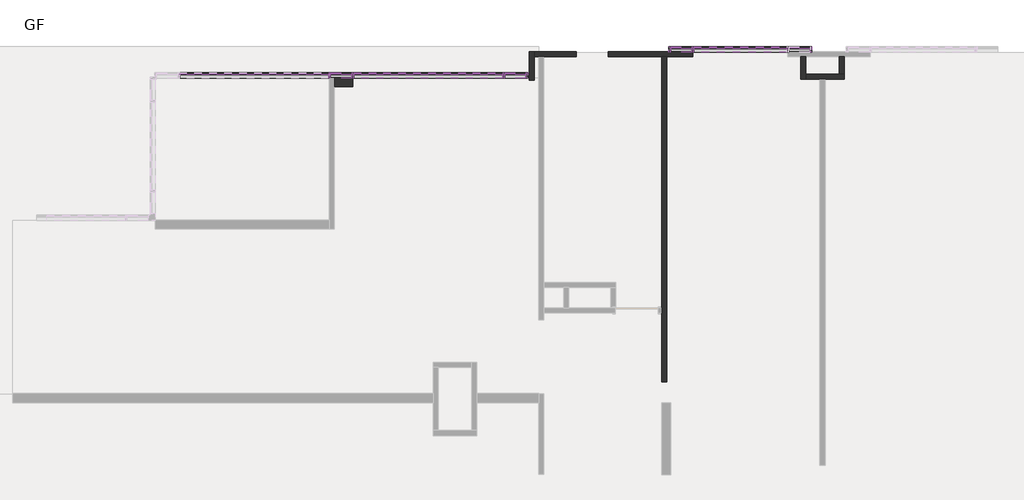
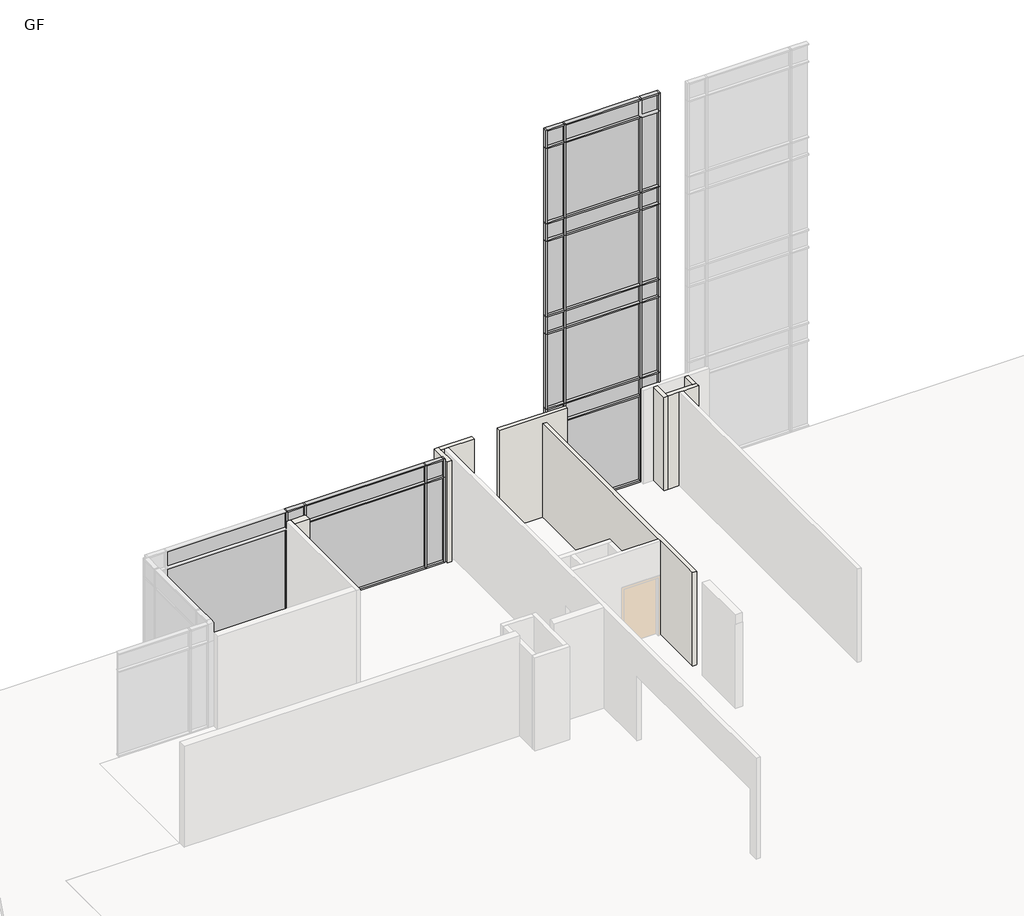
# One storey, part 16 of 23: 75 members, 32 plates, 8 walls.
"""IFC4 building model written with IfcOpenShell, lengths in millimetres."""

from ifc_helpers import new_model, si_unit, frame, origin, place, context, project, spatial, polyline, outline, extrude, faceted_brep, transform, mapped, element, save
from components import rectangular_mullion_50_x_150mm_64d38db8, rectangular_mullion_50_x_150mm_68b3818a, rectangular_mullion_50_x_150mm_dbb82e9e, rectangular_mullion_50_x_150mm_350c86c2, rectangular_mullion_50_x_150mm_f245f1eb, rectangular_mullion_50_x_150mm_5fdcfccd, rectangular_mullion_50_x_150mm_d11e3bb4, rectangular_mullion_50_x_150mm_7d543e93, rectangular_mullion_50_x_150mm_9e0f1e24, rectangular_mullion_50_x_150mm_a95743fc, rectangular_mullion_50_x_150mm_32aaa733, rectangular_mullion_50_x_150mm_9b8962c0, rectangular_mullion_50_x_150mm_b34d1ea9, rectangular_mullion_50_x_150mm_eae7d4bc, rectangular_mullion_50_x_150mm_8786dd09, rectangular_mullion_50_x_150mm_eaf4cf72, system_panel_glazed_24812111, system_panel_glazed_4cc813f7, system_panel_glazed_e5239730, system_panel_glazed_78397629, system_panel_glazed_46705a58, system_panel_glazed_6a293f1c, system_panel_glazed_93ed122c, system_panel_glazed_2ee935f9, system_panel_glazed_519bd7f2, system_panel_glazed_ec0e8b53

model = new_model("IFC4")

# Units and contexts
model_context = context("Model", 3, world=origin())
ifc_project = project(units=[si_unit("LENGTHUNIT", "METRE", prefix="MILLI")], contexts=[model_context])

# Site, building, storey
site = spatial("IfcSite", under=ifc_project)
building = spatial("IfcBuilding", under=site)
storey = spatial("IfcBuildingStorey", under=building, Name="GF", Elevation=900.0)

# Members
placement = place(None, origin())
rectangular_mullion_50_x_150mm_shape = rectangular_mullion_50_x_150mm_64d38db8(model_context)
element("IfcMember", 1, ObjectType="Rectangular Mullion : 50 x 150mm", at=placement, inside=storey, context=model_context, shape_type="MappedRepresentation", body=[
    mapped(rectangular_mullion_50_x_150mm_shape, transform((-26627.5865899, 20597.3851347, 4750.0), x_axis=(0.0, 0.0, 1.0), y_axis=(0.0, 1.0, 0.0), z_axis=(-1.0, 0.0, 0.0))),
])
element("IfcMember", 2, ObjectType="Rectangular Mullion : 50 x 150mm", at=placement, inside=storey, context=model_context, shape_type="MappedRepresentation", body=[
    mapped(rectangular_mullion_50_x_150mm_shape, transform((-21742.5865899, 20597.3851347, 4750.0), x_axis=(0.0, 0.0, 1.0), y_axis=(0.0, 1.0, 0.0), z_axis=(-1.0, 0.0, 0.0))),
])
element("IfcMember", 3, ObjectType="Rectangular Mullion : 50 x 150mm", at=placement, inside=storey, context=model_context, shape_type="MappedRepresentation", body=[
    mapped(rectangular_mullion_50_x_150mm_shape, transform((-21142.5865899, 20597.3851347, 900.0), x_axis=(0.0, 0.0, -1.0), y_axis=(0.0, 1.0, 0.0), z_axis=(1.0, 0.0, 0.0))),
])
element("IfcMember", 4, ObjectType="Rectangular Mullion : 50 x 150mm", at=placement, inside=storey, context=model_context, shape_type="MappedRepresentation", body=[
    mapped(rectangular_mullion_50_x_150mm_shape, transform((-26027.5865899, 20597.3851347, 900.0), x_axis=(0.0, 0.0, -1.0), y_axis=(0.0, 1.0, 0.0), z_axis=(1.0, 0.0, 0.0))),
])
element("IfcMember", 5, ObjectType="Rectangular Mullion : 50 x 150mm", at=placement, inside=storey, context=model_context, shape_type="MappedRepresentation", body=[
    mapped(rectangular_mullion_50_x_150mm_shape, transform((-13172.5865899, 21322.3851347, 15125.0), x_axis=(0.0, 0.0, 1.0), y_axis=(0.0, -1.0, 0.0), z_axis=(1.0, 0.0, 0.0))),
])
element("IfcMember", 6, ObjectType="Rectangular Mullion : 50 x 150mm", at=placement, inside=storey, context=model_context, shape_type="MappedRepresentation", body=[
    mapped(rectangular_mullion_50_x_150mm_shape, transform((-16487.5865899, 21322.3851347, 15125.0), x_axis=(0.0, 0.0, 1.0), y_axis=(0.0, -1.0, 0.0), z_axis=(1.0, 0.0, 0.0))),
])
element("IfcMember", 7, ObjectType="Rectangular Mullion : 50 x 150mm", at=placement, inside=storey, context=model_context, shape_type="MappedRepresentation", body=[
    mapped(rectangular_mullion_50_x_150mm_shape, transform((-17087.5865899, 21322.3851347, 900.0), x_axis=(0.0, 0.0, -1.0), y_axis=(0.0, -1.0, 0.0), z_axis=(-1.0, 0.0, 0.0))),
])
element("IfcMember", 8, ObjectType="Rectangular Mullion : 50 x 150mm", at=placement, inside=storey, context=model_context, shape_type="MappedRepresentation", body=[
    mapped(rectangular_mullion_50_x_150mm_shape, transform((-13772.5865899, 21322.3851347, 900.0), x_axis=(0.0, 0.0, -1.0), y_axis=(0.0, -1.0, 0.0), z_axis=(-1.0, 0.0, 0.0))),
])
rectangular_mullion_50_x_150mm_2_shape = rectangular_mullion_50_x_150mm_68b3818a(model_context)
element("IfcMember", 9, ObjectType="Rectangular Mullion : 50 x 150mm", at=placement, inside=storey, context=model_context, shape_type="MappedRepresentation", body=[
    mapped(rectangular_mullion_50_x_150mm_2_shape, transform((-16487.5865899, 21322.3851347, 4750.0), x_axis=(0.0, 0.0, 1.0), y_axis=(0.0, -1.0, 0.0), z_axis=(1.0, 0.0, 0.0))),
])
element("IfcMember", 10, ObjectType="Rectangular Mullion : 50 x 150mm", at=placement, inside=storey, context=model_context, shape_type="MappedRepresentation", body=[
    mapped(rectangular_mullion_50_x_150mm_2_shape, transform((-13172.5865899, 21322.3851347, 4750.0), x_axis=(0.0, 0.0, 1.0), y_axis=(0.0, -1.0, 0.0), z_axis=(1.0, 0.0, 0.0))),
])
element("IfcMember", 11, ObjectType="Rectangular Mullion : 50 x 150mm", at=placement, inside=storey, context=model_context, shape_type="MappedRepresentation", body=[
    mapped(rectangular_mullion_50_x_150mm_2_shape, transform((-16487.5865899, 21322.3851347, 4100.0), x_axis=(0.0, 0.0, 1.0), y_axis=(0.0, -1.0, 0.0), z_axis=(1.0, 0.0, 0.0))),
])
element("IfcMember", 12, ObjectType="Rectangular Mullion : 50 x 150mm", at=placement, inside=storey, context=model_context, shape_type="MappedRepresentation", body=[
    mapped(rectangular_mullion_50_x_150mm_2_shape, transform((-13172.5865899, 21322.3851347, 4100.0), x_axis=(0.0, 0.0, 1.0), y_axis=(0.0, -1.0, 0.0), z_axis=(1.0, 0.0, 0.0))),
])
element("IfcMember", 13, ObjectType="Rectangular Mullion : 50 x 150mm", at=placement, inside=storey, context=model_context, shape_type="MappedRepresentation", body=[
    mapped(rectangular_mullion_50_x_150mm_2_shape, transform((-16487.5865899, 21322.3851347, 8200.0), x_axis=(0.0, 0.0, 1.0), y_axis=(0.0, -1.0, 0.0), z_axis=(1.0, 0.0, 0.0))),
])
element("IfcMember", 14, ObjectType="Rectangular Mullion : 50 x 150mm", at=placement, inside=storey, context=model_context, shape_type="MappedRepresentation", body=[
    mapped(rectangular_mullion_50_x_150mm_2_shape, transform((-13172.5865899, 21322.3851347, 8200.0), x_axis=(0.0, 0.0, 1.0), y_axis=(0.0, -1.0, 0.0), z_axis=(1.0, 0.0, 0.0))),
])
element("IfcMember", 15, ObjectType="Rectangular Mullion : 50 x 150mm", at=placement, inside=storey, context=model_context, shape_type="MappedRepresentation", body=[
    mapped(rectangular_mullion_50_x_150mm_2_shape, transform((-16487.5865899, 21322.3851347, 11650.0), x_axis=(0.0, 0.0, 1.0), y_axis=(0.0, -1.0, 0.0), z_axis=(1.0, 0.0, 0.0))),
])
element("IfcMember", 16, ObjectType="Rectangular Mullion : 50 x 150mm", at=placement, inside=storey, context=model_context, shape_type="MappedRepresentation", body=[
    mapped(rectangular_mullion_50_x_150mm_2_shape, transform((-13172.5865899, 21322.3851347, 11650.0), x_axis=(0.0, 0.0, 1.0), y_axis=(0.0, -1.0, 0.0), z_axis=(1.0, 0.0, 0.0))),
])
element("IfcMember", 17, ObjectType="Rectangular Mullion : 50 x 150mm", at=placement, inside=storey, context=model_context, shape_type="MappedRepresentation", body=[
    mapped(rectangular_mullion_50_x_150mm_2_shape, transform((-16487.5865899, 21322.3851347, 7550.0), x_axis=(0.0, 0.0, 1.0), y_axis=(0.0, -1.0, 0.0), z_axis=(1.0, 0.0, 0.0))),
])
element("IfcMember", 18, ObjectType="Rectangular Mullion : 50 x 150mm", at=placement, inside=storey, context=model_context, shape_type="MappedRepresentation", body=[
    mapped(rectangular_mullion_50_x_150mm_2_shape, transform((-13172.5865899, 21322.3851347, 7550.0), x_axis=(0.0, 0.0, 1.0), y_axis=(0.0, -1.0, 0.0), z_axis=(1.0, 0.0, 0.0))),
])
element("IfcMember", 19, ObjectType="Rectangular Mullion : 50 x 150mm", at=placement, inside=storey, context=model_context, shape_type="MappedRepresentation", body=[
    mapped(rectangular_mullion_50_x_150mm_2_shape, transform((-16487.5865899, 21322.3851347, 11000.0), x_axis=(0.0, 0.0, 1.0), y_axis=(0.0, -1.0, 0.0), z_axis=(1.0, 0.0, 0.0))),
])
element("IfcMember", 20, ObjectType="Rectangular Mullion : 50 x 150mm", at=placement, inside=storey, context=model_context, shape_type="MappedRepresentation", body=[
    mapped(rectangular_mullion_50_x_150mm_2_shape, transform((-13172.5865899, 21322.3851347, 11000.0), x_axis=(0.0, 0.0, 1.0), y_axis=(0.0, -1.0, 0.0), z_axis=(1.0, 0.0, 0.0))),
])
element("IfcMember", 21, ObjectType="Rectangular Mullion : 50 x 150mm", at=placement, inside=storey, context=model_context, shape_type="MappedRepresentation", body=[
    mapped(rectangular_mullion_50_x_150mm_2_shape, transform((-16487.5865899, 21322.3851347, 14450.0), x_axis=(0.0, 0.0, 1.0), y_axis=(0.0, -1.0, 0.0), z_axis=(1.0, 0.0, 0.0))),
])
element("IfcMember", 22, ObjectType="Rectangular Mullion : 50 x 150mm", at=placement, inside=storey, context=model_context, shape_type="MappedRepresentation", body=[
    mapped(rectangular_mullion_50_x_150mm_2_shape, transform((-21742.5865899, 20597.3851347, 4075.0), x_axis=(0.0, 0.0, 1.0), y_axis=(0.0, 1.0, 0.0), z_axis=(-1.0, 0.0, 0.0))),
])
element("IfcMember", 23, ObjectType="Rectangular Mullion : 50 x 150mm", at=placement, inside=storey, context=model_context, shape_type="MappedRepresentation", body=[
    mapped(rectangular_mullion_50_x_150mm_2_shape, transform((-26627.5865899, 20597.3851347, 4075.0), x_axis=(0.0, 0.0, 1.0), y_axis=(0.0, 1.0, 0.0), z_axis=(-1.0, 0.0, 0.0))),
])
rectangular_mullion_50_x_150mm_3_shape = rectangular_mullion_50_x_150mm_dbb82e9e(model_context)
element("IfcMember", 24, ObjectType="Rectangular Mullion : 50 x 150mm", at=placement, inside=storey, context=model_context, shape_type="MappedRepresentation", body=[
    mapped(rectangular_mullion_50_x_150mm_3_shape, transform((-21092.5865899, 20597.3851347, 4750.0), x_axis=(1.0, 0.0, 0.0), y_axis=(0.0, 1.0, 0.0), z_axis=(0.0, 0.0, 1.0))),
])
rectangular_mullion_50_x_150mm_4_shape = rectangular_mullion_50_x_150mm_350c86c2(model_context)
element("IfcMember", 25, ObjectType="Rectangular Mullion : 50 x 150mm", at=placement, inside=storey, context=model_context, shape_type="MappedRepresentation", body=[
    mapped(rectangular_mullion_50_x_150mm_4_shape, transform((-16437.5865899, 21322.3851347, 900.0), x_axis=(0.0, 0.0, -1.0), y_axis=(0.0, -1.0, 0.0), z_axis=(-1.0, 0.0, 0.0))),
])
rectangular_mullion_50_x_150mm_5_shape = rectangular_mullion_50_x_150mm_f245f1eb(model_context)
element("IfcMember", 26, ObjectType="Rectangular Mullion : 50 x 150mm", at=placement, inside=storey, context=model_context, shape_type="MappedRepresentation", body=[
    mapped(rectangular_mullion_50_x_150mm_5_shape, transform((-16462.5865899, 21322.3851347, 900.0), x_axis=(1.0, 0.0, 0.0), y_axis=(0.0, -1.0, 0.0), z_axis=(0.0, 0.0, -1.0))),
])
element("IfcMember", 27, ObjectType="Rectangular Mullion : 50 x 150mm", at=placement, inside=storey, context=model_context, shape_type="MappedRepresentation", body=[
    mapped(rectangular_mullion_50_x_150mm_5_shape, transform((-13797.5865899, 21322.3851347, 900.0), x_axis=(1.0, 0.0, 0.0), y_axis=(0.0, -1.0, 0.0), z_axis=(0.0, 0.0, -1.0))),
])
element("IfcMember", 28, ObjectType="Rectangular Mullion : 50 x 150mm", at=placement, inside=storey, context=model_context, shape_type="MappedRepresentation", body=[
    mapped(rectangular_mullion_50_x_150mm_4_shape, transform((-13822.5865899, 21322.3851347, 15125.0), x_axis=(0.0, 0.0, 1.0), y_axis=(0.0, -1.0, 0.0), z_axis=(1.0, 0.0, 0.0))),
])
rectangular_mullion_50_x_150mm_6_shape = rectangular_mullion_50_x_150mm_5fdcfccd(model_context)
element("IfcMember", 29, ObjectType="Rectangular Mullion : 50 x 150mm", at=placement, inside=storey, context=model_context, shape_type="MappedRepresentation", body=[
    mapped(rectangular_mullion_50_x_150mm_6_shape, transform((-13822.5865899, 21322.3851347, 4750.0), x_axis=(0.0, 0.0, 1.0), y_axis=(0.0, -1.0, 0.0), z_axis=(1.0, 0.0, 0.0))),
])
element("IfcMember", 30, ObjectType="Rectangular Mullion : 50 x 150mm", at=placement, inside=storey, context=model_context, shape_type="MappedRepresentation", body=[
    mapped(rectangular_mullion_50_x_150mm_6_shape, transform((-13822.5865899, 21322.3851347, 4100.0), x_axis=(0.0, 0.0, 1.0), y_axis=(0.0, -1.0, 0.0), z_axis=(1.0, 0.0, 0.0))),
])
element("IfcMember", 31, ObjectType="Rectangular Mullion : 50 x 150mm", at=placement, inside=storey, context=model_context, shape_type="MappedRepresentation", body=[
    mapped(rectangular_mullion_50_x_150mm_6_shape, transform((-13822.5865899, 21322.3851347, 8200.0), x_axis=(0.0, 0.0, 1.0), y_axis=(0.0, -1.0, 0.0), z_axis=(1.0, 0.0, 0.0))),
])
element("IfcMember", 32, ObjectType="Rectangular Mullion : 50 x 150mm", at=placement, inside=storey, context=model_context, shape_type="MappedRepresentation", body=[
    mapped(rectangular_mullion_50_x_150mm_6_shape, transform((-13822.5865899, 21322.3851347, 11650.0), x_axis=(0.0, 0.0, 1.0), y_axis=(0.0, -1.0, 0.0), z_axis=(1.0, 0.0, 0.0))),
])
element("IfcMember", 33, ObjectType="Rectangular Mullion : 50 x 150mm", at=placement, inside=storey, context=model_context, shape_type="MappedRepresentation", body=[
    mapped(rectangular_mullion_50_x_150mm_6_shape, transform((-13822.5865899, 21322.3851347, 7550.0), x_axis=(0.0, 0.0, 1.0), y_axis=(0.0, -1.0, 0.0), z_axis=(1.0, 0.0, 0.0))),
])
element("IfcMember", 34, ObjectType="Rectangular Mullion : 50 x 150mm", at=placement, inside=storey, context=model_context, shape_type="MappedRepresentation", body=[
    mapped(rectangular_mullion_50_x_150mm_6_shape, transform((-13822.5865899, 21322.3851347, 11000.0), x_axis=(0.0, 0.0, 1.0), y_axis=(0.0, -1.0, 0.0), z_axis=(1.0, 0.0, 0.0))),
])
element("IfcMember", 35, ObjectType="Rectangular Mullion : 50 x 150mm", at=placement, inside=storey, context=model_context, shape_type="MappedRepresentation", body=[
    mapped(rectangular_mullion_50_x_150mm_6_shape, transform((-13822.5865899, 21322.3851347, 14450.0), x_axis=(0.0, 0.0, 1.0), y_axis=(0.0, -1.0, 0.0), z_axis=(1.0, 0.0, 0.0))),
])
rectangular_mullion_50_x_150mm_7_shape = rectangular_mullion_50_x_150mm_d11e3bb4(model_context)
element("IfcMember", 36, ObjectType="Rectangular Mullion : 50 x 150mm", at=placement, inside=storey, context=model_context, shape_type="MappedRepresentation", body=[
    mapped(rectangular_mullion_50_x_150mm_7_shape, transform((-16462.5865899, 21322.3851347, 4750.0), x_axis=(1.0, 0.0, 0.0), y_axis=(0.0, -1.0, 0.0), z_axis=(0.0, 0.0, -1.0))),
])
element("IfcMember", 37, ObjectType="Rectangular Mullion : 50 x 150mm", at=placement, inside=storey, context=model_context, shape_type="MappedRepresentation", body=[
    mapped(rectangular_mullion_50_x_150mm_7_shape, transform((-13797.5865899, 21322.3851347, 4750.0), x_axis=(1.0, 0.0, 0.0), y_axis=(0.0, -1.0, 0.0), z_axis=(0.0, 0.0, -1.0))),
])
element("IfcMember", 38, ObjectType="Rectangular Mullion : 50 x 150mm", at=placement, inside=storey, context=model_context, shape_type="MappedRepresentation", body=[
    mapped(rectangular_mullion_50_x_150mm_7_shape, transform((-16462.5865899, 21322.3851347, 8200.0), x_axis=(1.0, 0.0, 0.0), y_axis=(0.0, -1.0, 0.0), z_axis=(0.0, 0.0, -1.0))),
])
element("IfcMember", 39, ObjectType="Rectangular Mullion : 50 x 150mm", at=placement, inside=storey, context=model_context, shape_type="MappedRepresentation", body=[
    mapped(rectangular_mullion_50_x_150mm_7_shape, transform((-13797.5865899, 21322.3851347, 8200.0), x_axis=(1.0, 0.0, 0.0), y_axis=(0.0, -1.0, 0.0), z_axis=(0.0, 0.0, -1.0))),
])
element("IfcMember", 40, ObjectType="Rectangular Mullion : 50 x 150mm", at=placement, inside=storey, context=model_context, shape_type="MappedRepresentation", body=[
    mapped(rectangular_mullion_50_x_150mm_7_shape, transform((-16462.5865899, 21322.3851347, 11650.0), x_axis=(1.0, 0.0, 0.0), y_axis=(0.0, -1.0, 0.0), z_axis=(0.0, 0.0, -1.0))),
])
element("IfcMember", 41, ObjectType="Rectangular Mullion : 50 x 150mm", at=placement, inside=storey, context=model_context, shape_type="MappedRepresentation", body=[
    mapped(rectangular_mullion_50_x_150mm_7_shape, transform((-13797.5865899, 21322.3851347, 11650.0), x_axis=(1.0, 0.0, 0.0), y_axis=(0.0, -1.0, 0.0), z_axis=(0.0, 0.0, -1.0))),
])
rectangular_mullion_50_x_150mm_8_shape = rectangular_mullion_50_x_150mm_7d543e93(model_context)
element("IfcMember", 42, ObjectType="Rectangular Mullion : 50 x 150mm", at=placement, inside=storey, context=model_context, shape_type="MappedRepresentation", body=[
    mapped(rectangular_mullion_50_x_150mm_8_shape, transform((-16462.5865899, 21322.3851347, 4100.0), x_axis=(1.0, 0.0, 0.0), y_axis=(0.0, -1.0, 0.0), z_axis=(0.0, 0.0, -1.0))),
])
element("IfcMember", 43, ObjectType="Rectangular Mullion : 50 x 150mm", at=placement, inside=storey, context=model_context, shape_type="MappedRepresentation", body=[
    mapped(rectangular_mullion_50_x_150mm_8_shape, transform((-13797.5865899, 21322.3851347, 4100.0), x_axis=(1.0, 0.0, 0.0), y_axis=(0.0, -1.0, 0.0), z_axis=(0.0, 0.0, -1.0))),
])
element("IfcMember", 44, ObjectType="Rectangular Mullion : 50 x 150mm", at=placement, inside=storey, context=model_context, shape_type="MappedRepresentation", body=[
    mapped(rectangular_mullion_50_x_150mm_8_shape, transform((-16462.5865899, 21322.3851347, 7550.0), x_axis=(1.0, 0.0, 0.0), y_axis=(0.0, -1.0, 0.0), z_axis=(0.0, 0.0, -1.0))),
])
element("IfcMember", 45, ObjectType="Rectangular Mullion : 50 x 150mm", at=placement, inside=storey, context=model_context, shape_type="MappedRepresentation", body=[
    mapped(rectangular_mullion_50_x_150mm_8_shape, transform((-13797.5865899, 21322.3851347, 7550.0), x_axis=(1.0, 0.0, 0.0), y_axis=(0.0, -1.0, 0.0), z_axis=(0.0, 0.0, -1.0))),
])
element("IfcMember", 46, ObjectType="Rectangular Mullion : 50 x 150mm", at=placement, inside=storey, context=model_context, shape_type="MappedRepresentation", body=[
    mapped(rectangular_mullion_50_x_150mm_8_shape, transform((-16462.5865899, 21322.3851347, 11000.0), x_axis=(1.0, 0.0, 0.0), y_axis=(0.0, -1.0, 0.0), z_axis=(0.0, 0.0, -1.0))),
])
element("IfcMember", 47, ObjectType="Rectangular Mullion : 50 x 150mm", at=placement, inside=storey, context=model_context, shape_type="MappedRepresentation", body=[
    mapped(rectangular_mullion_50_x_150mm_8_shape, transform((-13797.5865899, 21322.3851347, 11000.0), x_axis=(1.0, 0.0, 0.0), y_axis=(0.0, -1.0, 0.0), z_axis=(0.0, 0.0, -1.0))),
])
rectangular_mullion_50_x_150mm_9_shape = rectangular_mullion_50_x_150mm_9e0f1e24(model_context)
element("IfcMember", 48, ObjectType="Rectangular Mullion : 50 x 150mm", at=placement, inside=storey, context=model_context, shape_type="MappedRepresentation", body=[
    mapped(rectangular_mullion_50_x_150mm_9_shape, transform((-16462.5865899, 21322.3851347, 14450.0), x_axis=(1.0, 0.0, 0.0), y_axis=(0.0, -1.0, 0.0), z_axis=(0.0, 0.0, -1.0))),
])
rectangular_mullion_50_x_150mm_10_shape = rectangular_mullion_50_x_150mm_a95743fc(model_context)
element("IfcMember", 49, ObjectType="Rectangular Mullion : 50 x 150mm", at=placement, inside=storey, context=model_context, shape_type="MappedRepresentation", body=[
    mapped(rectangular_mullion_50_x_150mm_10_shape, transform((-13122.5865899, 21322.3851347, 900.0), x_axis=(1.0, 0.0, 0.0), y_axis=(0.0, -1.0, 0.0), z_axis=(0.0, 0.0, -1.0))),
])
element("IfcMember", 50, ObjectType="Rectangular Mullion : 50 x 150mm", at=placement, inside=storey, context=model_context, shape_type="MappedRepresentation", body=[
    mapped(rectangular_mullion_50_x_150mm_3_shape, transform((-17137.5865899, 21322.3851347, 15125.0), x_axis=(-1.0, 0.0, 0.0), y_axis=(0.0, -1.0, 0.0), z_axis=(0.0, 0.0, 1.0))),
])
rectangular_mullion_50_x_150mm_11_shape = rectangular_mullion_50_x_150mm_32aaa733(model_context)
element("IfcMember", 51, ObjectType="Rectangular Mullion : 50 x 150mm", at=placement, inside=storey, context=model_context, shape_type="MappedRepresentation", body=[
    mapped(rectangular_mullion_50_x_150mm_11_shape, transform((-13122.5865899, 21322.3851347, 4750.0), x_axis=(1.0, 0.0, 0.0), y_axis=(0.0, -1.0, 0.0), z_axis=(0.0, 0.0, -1.0))),
])
element("IfcMember", 52, ObjectType="Rectangular Mullion : 50 x 150mm", at=placement, inside=storey, context=model_context, shape_type="MappedRepresentation", body=[
    mapped(rectangular_mullion_50_x_150mm_11_shape, transform((-13122.5865899, 21322.3851347, 8200.0), x_axis=(1.0, 0.0, 0.0), y_axis=(0.0, -1.0, 0.0), z_axis=(0.0, 0.0, -1.0))),
])
element("IfcMember", 53, ObjectType="Rectangular Mullion : 50 x 150mm", at=placement, inside=storey, context=model_context, shape_type="MappedRepresentation", body=[
    mapped(rectangular_mullion_50_x_150mm_11_shape, transform((-13122.5865899, 21322.3851347, 11650.0), x_axis=(1.0, 0.0, 0.0), y_axis=(0.0, -1.0, 0.0), z_axis=(0.0, 0.0, -1.0))),
])
rectangular_mullion_50_x_150mm_12_shape = rectangular_mullion_50_x_150mm_9b8962c0(model_context)
element("IfcMember", 54, ObjectType="Rectangular Mullion : 50 x 150mm", at=placement, inside=storey, context=model_context, shape_type="MappedRepresentation", body=[
    mapped(rectangular_mullion_50_x_150mm_12_shape, transform((-17137.5865899, 21322.3851347, 4750.0), x_axis=(-1.0, 0.0, 0.0), y_axis=(0.0, -1.0, 0.0), z_axis=(0.0, 0.0, 1.0))),
])
element("IfcMember", 55, ObjectType="Rectangular Mullion : 50 x 150mm", at=placement, inside=storey, context=model_context, shape_type="MappedRepresentation", body=[
    mapped(rectangular_mullion_50_x_150mm_12_shape, transform((-17137.5865899, 21322.3851347, 8200.0), x_axis=(-1.0, 0.0, 0.0), y_axis=(0.0, -1.0, 0.0), z_axis=(0.0, 0.0, 1.0))),
])
element("IfcMember", 56, ObjectType="Rectangular Mullion : 50 x 150mm", at=placement, inside=storey, context=model_context, shape_type="MappedRepresentation", body=[
    mapped(rectangular_mullion_50_x_150mm_12_shape, transform((-17137.5865899, 21322.3851347, 11650.0), x_axis=(-1.0, 0.0, 0.0), y_axis=(0.0, -1.0, 0.0), z_axis=(0.0, 0.0, 1.0))),
])
element("IfcMember", 57, ObjectType="Rectangular Mullion : 50 x 150mm", at=placement, inside=storey, context=model_context, shape_type="MappedRepresentation", body=[
    mapped(rectangular_mullion_50_x_150mm_12_shape, transform((-13122.5865899, 21322.3851347, 4100.0), x_axis=(1.0, 0.0, 0.0), y_axis=(0.0, -1.0, 0.0), z_axis=(0.0, 0.0, -1.0))),
])
element("IfcMember", 58, ObjectType="Rectangular Mullion : 50 x 150mm", at=placement, inside=storey, context=model_context, shape_type="MappedRepresentation", body=[
    mapped(rectangular_mullion_50_x_150mm_12_shape, transform((-13122.5865899, 21322.3851347, 7550.0), x_axis=(1.0, 0.0, 0.0), y_axis=(0.0, -1.0, 0.0), z_axis=(0.0, 0.0, -1.0))),
])
element("IfcMember", 59, ObjectType="Rectangular Mullion : 50 x 150mm", at=placement, inside=storey, context=model_context, shape_type="MappedRepresentation", body=[
    mapped(rectangular_mullion_50_x_150mm_12_shape, transform((-13122.5865899, 21322.3851347, 11000.0), x_axis=(1.0, 0.0, 0.0), y_axis=(0.0, -1.0, 0.0), z_axis=(0.0, 0.0, -1.0))),
])
element("IfcMember", 60, ObjectType="Rectangular Mullion : 50 x 150mm", at=placement, inside=storey, context=model_context, shape_type="MappedRepresentation", body=[
    mapped(rectangular_mullion_50_x_150mm_10_shape, transform((-17137.5865899, 21322.3851347, 4100.0), x_axis=(-1.0, 0.0, 0.0), y_axis=(0.0, -1.0, 0.0), z_axis=(0.0, 0.0, 1.0))),
])
element("IfcMember", 61, ObjectType="Rectangular Mullion : 50 x 150mm", at=placement, inside=storey, context=model_context, shape_type="MappedRepresentation", body=[
    mapped(rectangular_mullion_50_x_150mm_11_shape, transform((-17137.5865899, 21322.3851347, 7550.0), x_axis=(-1.0, 0.0, 0.0), y_axis=(0.0, -1.0, 0.0), z_axis=(0.0, 0.0, 1.0))),
])
element("IfcMember", 62, ObjectType="Rectangular Mullion : 50 x 150mm", at=placement, inside=storey, context=model_context, shape_type="MappedRepresentation", body=[
    mapped(rectangular_mullion_50_x_150mm_11_shape, transform((-17137.5865899, 21322.3851347, 11000.0), x_axis=(-1.0, 0.0, 0.0), y_axis=(0.0, -1.0, 0.0), z_axis=(0.0, 0.0, 1.0))),
])
element("IfcMember", 63, ObjectType="Rectangular Mullion : 50 x 150mm", at=placement, inside=storey, context=model_context, shape_type="MappedRepresentation", body=[
    mapped(rectangular_mullion_50_x_150mm_11_shape, transform((-17137.5865899, 21322.3851347, 14450.0), x_axis=(-1.0, 0.0, 0.0), y_axis=(0.0, -1.0, 0.0), z_axis=(0.0, 0.0, 1.0))),
])
element("IfcMember", 64, ObjectType="Rectangular Mullion : 50 x 150mm", at=placement, inside=storey, context=model_context, shape_type="MappedRepresentation", body=[
    mapped(rectangular_mullion_50_x_150mm_3_shape, transform((-13122.5865899, 21322.3851347, 14450.0), x_axis=(1.0, 0.0, 0.0), y_axis=(0.0, -1.0, 0.0), z_axis=(0.0, 0.0, -1.0))),
])
element("IfcMember", 65, ObjectType="Rectangular Mullion : 50 x 150mm", at=placement, inside=storey, context=model_context, shape_type="MappedRepresentation", body=[
    mapped(rectangular_mullion_50_x_150mm_9_shape, transform((-21767.5865899, 20597.3851347, 4075.0), x_axis=(-1.0, 0.0, 0.0), y_axis=(0.0, 1.0, 0.0), z_axis=(0.0, 0.0, -1.0))),
])
element("IfcMember", 66, ObjectType="Rectangular Mullion : 50 x 150mm", at=placement, inside=storey, context=model_context, shape_type="MappedRepresentation", body=[
    mapped(rectangular_mullion_50_x_150mm_9_shape, transform((-26002.5865899, 20597.3851347, 4075.0), x_axis=(-1.0, 0.0, 0.0), y_axis=(0.0, 1.0, 0.0), z_axis=(0.0, 0.0, -1.0))),
])
element("IfcMember", 67, ObjectType="Rectangular Mullion : 50 x 150mm", at=placement, inside=storey, context=model_context, shape_type="MappedRepresentation", body=[
    mapped(rectangular_mullion_50_x_150mm_9_shape, transform((-26652.5865899, 20597.3851347, 4075.0), x_axis=(-1.0, 0.0, 0.0), y_axis=(0.0, 1.0, 0.0), z_axis=(0.0, 0.0, -1.0))),
])
rectangular_mullion_50_x_150mm_13_shape = rectangular_mullion_50_x_150mm_b34d1ea9(model_context)
element("IfcMember", 68, ObjectType="Rectangular Mullion : 50 x 150mm", at=placement, inside=storey, context=model_context, shape_type="MappedRepresentation", body=[
    mapped(rectangular_mullion_50_x_150mm_13_shape, transform((-25977.5865899, 20597.3851347, 4750.0), x_axis=(0.0, 0.0, 1.0), y_axis=(0.0, 1.0, 0.0), z_axis=(-1.0, 0.0, 0.0))),
])
rectangular_mullion_50_x_150mm_14_shape = rectangular_mullion_50_x_150mm_eae7d4bc(model_context)
element("IfcMember", 69, ObjectType="Rectangular Mullion : 50 x 150mm", at=placement, inside=storey, context=model_context, shape_type="MappedRepresentation", body=[
    mapped(rectangular_mullion_50_x_150mm_14_shape, transform((-26652.5865899, 20597.3851347, 900.0), x_axis=(-1.0, 0.0, 0.0), y_axis=(0.0, 1.0, 0.0), z_axis=(0.0, 0.0, -1.0))),
])
element("IfcMember", 70, ObjectType="Rectangular Mullion : 50 x 150mm", at=placement, inside=storey, context=model_context, shape_type="MappedRepresentation", body=[
    mapped(rectangular_mullion_50_x_150mm_14_shape, transform((-26002.5865899, 20597.3851347, 900.0), x_axis=(-1.0, 0.0, 0.0), y_axis=(0.0, 1.0, 0.0), z_axis=(0.0, 0.0, -1.0))),
])
element("IfcMember", 71, ObjectType="Rectangular Mullion : 50 x 150mm", at=placement, inside=storey, context=model_context, shape_type="MappedRepresentation", body=[
    mapped(rectangular_mullion_50_x_150mm_14_shape, transform((-21767.5865899, 20597.3851347, 900.0), x_axis=(-1.0, 0.0, 0.0), y_axis=(0.0, 1.0, 0.0), z_axis=(0.0, 0.0, -1.0))),
])
element("IfcMember", 72, ObjectType="Rectangular Mullion : 50 x 150mm", at=placement, inside=storey, context=model_context, shape_type="MappedRepresentation", body=[
    mapped(rectangular_mullion_50_x_150mm_13_shape, transform((-26677.5865899, 20597.3851347, 900.0), x_axis=(0.0, 0.0, -1.0), y_axis=(0.0, 1.0, 0.0), z_axis=(1.0, 0.0, 0.0))),
])
element("IfcMember", 73, ObjectType="Rectangular Mullion : 50 x 150mm", at=placement, inside=storey, context=model_context, shape_type="MappedRepresentation", body=[
    mapped(rectangular_mullion_50_x_150mm_13_shape, transform((-21792.5865899, 20597.3851347, 900.0), x_axis=(0.0, 0.0, -1.0), y_axis=(0.0, 1.0, 0.0), z_axis=(1.0, 0.0, 0.0))),
])
rectangular_mullion_50_x_150mm_15_shape = rectangular_mullion_50_x_150mm_8786dd09(model_context)
element("IfcMember", 74, ObjectType="Rectangular Mullion : 50 x 150mm", at=placement, inside=storey, context=model_context, shape_type="MappedRepresentation", body=[
    mapped(rectangular_mullion_50_x_150mm_15_shape, transform((-25977.5865899, 20597.3851347, 4075.0), x_axis=(0.0, 0.0, 1.0), y_axis=(0.0, 1.0, 0.0), z_axis=(-1.0, 0.0, 0.0))),
])
rectangular_mullion_50_x_150mm_16_shape = rectangular_mullion_50_x_150mm_eaf4cf72(model_context)
element("IfcMember", 75, ObjectType="Rectangular Mullion : 50 x 150mm", at=placement, inside=storey, context=model_context, shape_type="MappedRepresentation", body=[
    mapped(rectangular_mullion_50_x_150mm_16_shape, transform((-21092.5865899, 20597.3851347, 4075.0), x_axis=(1.0, 0.0, 0.0), y_axis=(0.0, 1.0, 0.0), z_axis=(0.0, 0.0, 1.0))),
])

# Plates
system_panel_glazed_shape = system_panel_glazed_24812111(model_context)
element("IfcPlate", 76, ObjectType="System Panel : Glazed", at=placement, inside=storey, context=model_context, shape_type="MappedRepresentation", body=[
    mapped(system_panel_glazed_shape, transform((-16787.5865899, 21322.3851347, 4125.0), x_axis=(1.0, 0.0, 0.0), y_axis=(0.0, 1.0, 0.0), z_axis=(0.0, 0.0, 1.0))),
])
element("IfcPlate", 77, ObjectType="System Panel : Glazed", at=placement, inside=storey, context=model_context, shape_type="MappedRepresentation", body=[
    mapped(system_panel_glazed_shape, transform((-13472.5865899, 21322.3851347, 4125.0), x_axis=(1.0, 0.0, 0.0), y_axis=(0.0, 1.0, 0.0), z_axis=(0.0, 0.0, 1.0))),
])
element("IfcPlate", 78, ObjectType="System Panel : Glazed", at=placement, inside=storey, context=model_context, shape_type="MappedRepresentation", body=[
    mapped(system_panel_glazed_shape, transform((-16787.5865899, 21322.3851347, 7575.0), x_axis=(1.0, 0.0, 0.0), y_axis=(0.0, 1.0, 0.0), z_axis=(0.0, 0.0, 1.0))),
])
element("IfcPlate", 79, ObjectType="System Panel : Glazed", at=placement, inside=storey, context=model_context, shape_type="MappedRepresentation", body=[
    mapped(system_panel_glazed_shape, transform((-13472.5865899, 21322.3851347, 7575.0), x_axis=(1.0, 0.0, 0.0), y_axis=(0.0, 1.0, 0.0), z_axis=(0.0, 0.0, 1.0))),
])
element("IfcPlate", 80, ObjectType="System Panel : Glazed", at=placement, inside=storey, context=model_context, shape_type="MappedRepresentation", body=[
    mapped(system_panel_glazed_shape, transform((-16787.5865899, 21322.3851347, 11025.0), x_axis=(1.0, 0.0, 0.0), y_axis=(0.0, 1.0, 0.0), z_axis=(0.0, 0.0, 1.0))),
])
element("IfcPlate", 81, ObjectType="System Panel : Glazed", at=placement, inside=storey, context=model_context, shape_type="MappedRepresentation", body=[
    mapped(system_panel_glazed_shape, transform((-13472.5865899, 21322.3851347, 11025.0), x_axis=(1.0, 0.0, 0.0), y_axis=(0.0, 1.0, 0.0), z_axis=(0.0, 0.0, 1.0))),
])
element("IfcPlate", 82, ObjectType="System Panel : Glazed", at=placement, inside=storey, context=model_context, shape_type="MappedRepresentation", body=[
    mapped(system_panel_glazed_shape, transform((-16787.5865899, 21322.3851347, 14475.0), x_axis=(1.0, 0.0, 0.0), y_axis=(0.0, 1.0, 0.0), z_axis=(0.0, 0.0, 1.0))),
])
element("IfcPlate", 83, ObjectType="System Panel : Glazed", at=placement, inside=storey, context=model_context, shape_type="MappedRepresentation", body=[
    mapped(system_panel_glazed_shape, transform((-13472.5865899, 21322.3851347, 14475.0), x_axis=(1.0, 0.0, 0.0), y_axis=(0.0, 1.0, 0.0), z_axis=(0.0, 0.0, 1.0))),
])
system_panel_glazed_2_shape = system_panel_glazed_4cc813f7(model_context)
element("IfcPlate", 84, ObjectType="System Panel : Glazed", at=placement, inside=storey, context=model_context, shape_type="MappedRepresentation", body=[
    mapped(system_panel_glazed_2_shape, transform((-15130.0865899, 21322.3851347, 4125.0), x_axis=(1.0, 0.0, 0.0), y_axis=(0.0, 1.0, 0.0), z_axis=(0.0, 0.0, 1.0))),
])
element("IfcPlate", 85, ObjectType="System Panel : Glazed", at=placement, inside=storey, context=model_context, shape_type="MappedRepresentation", body=[
    mapped(system_panel_glazed_2_shape, transform((-15130.0865899, 21322.3851347, 7575.0), x_axis=(1.0, 0.0, 0.0), y_axis=(0.0, 1.0, 0.0), z_axis=(0.0, 0.0, 1.0))),
])
element("IfcPlate", 86, ObjectType="System Panel : Glazed", at=placement, inside=storey, context=model_context, shape_type="MappedRepresentation", body=[
    mapped(system_panel_glazed_2_shape, transform((-15130.0865899, 21322.3851347, 11025.0), x_axis=(1.0, 0.0, 0.0), y_axis=(0.0, 1.0, 0.0), z_axis=(0.0, 0.0, 1.0))),
])
element("IfcPlate", 87, ObjectType="System Panel : Glazed", at=placement, inside=storey, context=model_context, shape_type="MappedRepresentation", body=[
    mapped(system_panel_glazed_2_shape, transform((-15130.0865899, 21322.3851347, 14475.0), x_axis=(1.0, 0.0, 0.0), y_axis=(0.0, 1.0, 0.0), z_axis=(0.0, 0.0, 1.0))),
])
system_panel_glazed_3_shape = system_panel_glazed_e5239730(model_context)
element("IfcPlate", 88, ObjectType="System Panel : Glazed", at=placement, inside=storey, context=model_context, shape_type="MappedRepresentation", body=[
    mapped(system_panel_glazed_3_shape, transform((-16787.5865899, 21322.3851347, 4775.0), x_axis=(1.0, 0.0, 0.0), y_axis=(0.0, 1.0, 0.0), z_axis=(0.0, 0.0, 1.0))),
])
element("IfcPlate", 89, ObjectType="System Panel : Glazed", at=placement, inside=storey, context=model_context, shape_type="MappedRepresentation", body=[
    mapped(system_panel_glazed_3_shape, transform((-13472.5865899, 21322.3851347, 4775.0), x_axis=(1.0, 0.0, 0.0), y_axis=(0.0, 1.0, 0.0), z_axis=(0.0, 0.0, 1.0))),
])
element("IfcPlate", 90, ObjectType="System Panel : Glazed", at=placement, inside=storey, context=model_context, shape_type="MappedRepresentation", body=[
    mapped(system_panel_glazed_3_shape, transform((-16787.5865899, 21322.3851347, 8225.0), x_axis=(1.0, 0.0, 0.0), y_axis=(0.0, 1.0, 0.0), z_axis=(0.0, 0.0, 1.0))),
])
element("IfcPlate", 91, ObjectType="System Panel : Glazed", at=placement, inside=storey, context=model_context, shape_type="MappedRepresentation", body=[
    mapped(system_panel_glazed_3_shape, transform((-13472.5865899, 21322.3851347, 8225.0), x_axis=(1.0, 0.0, 0.0), y_axis=(0.0, 1.0, 0.0), z_axis=(0.0, 0.0, 1.0))),
])
element("IfcPlate", 92, ObjectType="System Panel : Glazed", at=placement, inside=storey, context=model_context, shape_type="MappedRepresentation", body=[
    mapped(system_panel_glazed_3_shape, transform((-16787.5865899, 21322.3851347, 11675.0), x_axis=(1.0, 0.0, 0.0), y_axis=(0.0, 1.0, 0.0), z_axis=(0.0, 0.0, 1.0))),
])
element("IfcPlate", 93, ObjectType="System Panel : Glazed", at=placement, inside=storey, context=model_context, shape_type="MappedRepresentation", body=[
    mapped(system_panel_glazed_3_shape, transform((-13472.5865899, 21322.3851347, 11675.0), x_axis=(1.0, 0.0, 0.0), y_axis=(0.0, 1.0, 0.0), z_axis=(0.0, 0.0, 1.0))),
])
system_panel_glazed_4_shape = system_panel_glazed_78397629(model_context)
element("IfcPlate", 94, ObjectType="System Panel : Glazed", at=placement, inside=storey, context=model_context, shape_type="MappedRepresentation", body=[
    mapped(system_panel_glazed_4_shape, transform((-15130.0865899, 21322.3851347, 4775.0), x_axis=(1.0, 0.0, 0.0), y_axis=(0.0, 1.0, 0.0), z_axis=(0.0, 0.0, 1.0))),
])
element("IfcPlate", 95, ObjectType="System Panel : Glazed", at=placement, inside=storey, context=model_context, shape_type="MappedRepresentation", body=[
    mapped(system_panel_glazed_4_shape, transform((-15130.0865899, 21322.3851347, 8225.0), x_axis=(1.0, 0.0, 0.0), y_axis=(0.0, 1.0, 0.0), z_axis=(0.0, 0.0, 1.0))),
])
element("IfcPlate", 96, ObjectType="System Panel : Glazed", at=placement, inside=storey, context=model_context, shape_type="MappedRepresentation", body=[
    mapped(system_panel_glazed_4_shape, transform((-15130.0865899, 21322.3851347, 11675.0), x_axis=(1.0, 0.0, 0.0), y_axis=(0.0, 1.0, 0.0), z_axis=(0.0, 0.0, 1.0))),
])
system_panel_glazed_5_shape = system_panel_glazed_46705a58(model_context)
element("IfcPlate", 97, ObjectType="System Panel : Glazed", at=placement, inside=storey, context=model_context, shape_type="MappedRepresentation", body=[
    mapped(system_panel_glazed_5_shape, transform((-16787.5865899, 21322.3851347, 950.0), x_axis=(1.0, 0.0, 0.0), y_axis=(0.0, 1.0, 0.0), z_axis=(0.0, 0.0, 1.0))),
])
element("IfcPlate", 98, ObjectType="System Panel : Glazed", at=placement, inside=storey, context=model_context, shape_type="MappedRepresentation", body=[
    mapped(system_panel_glazed_5_shape, transform((-13472.5865899, 21322.3851347, 950.0), x_axis=(1.0, 0.0, 0.0), y_axis=(0.0, 1.0, 0.0), z_axis=(0.0, 0.0, 1.0))),
])
system_panel_glazed_6_shape = system_panel_glazed_6a293f1c(model_context)
element("IfcPlate", 99, ObjectType="System Panel : Glazed", at=placement, inside=storey, context=model_context, shape_type="MappedRepresentation", body=[
    mapped(system_panel_glazed_6_shape, transform((-15130.0865899, 21322.3851347, 950.0), x_axis=(1.0, 0.0, 0.0), y_axis=(0.0, 1.0, 0.0), z_axis=(0.0, 0.0, 1.0))),
])
system_panel_glazed_7_shape = system_panel_glazed_93ed122c(model_context)
element("IfcPlate", 100, ObjectType="System Panel : Glazed", at=placement, inside=storey, context=model_context, shape_type="MappedRepresentation", body=[
    mapped(system_panel_glazed_7_shape, transform((-21442.5865899, 20597.3851347, 4100.0), x_axis=(-1.0, 0.0, 0.0), y_axis=(0.0, -1.0, 0.0), z_axis=(0.0, 0.0, 1.0))),
])
element("IfcPlate", 101, ObjectType="System Panel : Glazed", at=placement, inside=storey, context=model_context, shape_type="MappedRepresentation", body=[
    mapped(system_panel_glazed_7_shape, transform((-26327.5865899, 20597.3851347, 4100.0), x_axis=(-1.0, 0.0, 0.0), y_axis=(0.0, -1.0, 0.0), z_axis=(0.0, 0.0, 1.0))),
])
system_panel_glazed_8_shape = system_panel_glazed_2ee935f9(model_context)
element("IfcPlate", 102, ObjectType="System Panel : Glazed", at=placement, inside=storey, context=model_context, shape_type="MappedRepresentation", body=[
    mapped(system_panel_glazed_8_shape, transform((-21442.5865899, 20597.3851347, 950.0), x_axis=(-1.0, 0.0, 0.0), y_axis=(0.0, -1.0, 0.0), z_axis=(0.0, 0.0, 1.0))),
])
element("IfcPlate", 103, ObjectType="System Panel : Glazed", at=placement, inside=storey, context=model_context, shape_type="MappedRepresentation", body=[
    mapped(system_panel_glazed_8_shape, transform((-26327.5865899, 20597.3851347, 950.0), x_axis=(-1.0, 0.0, 0.0), y_axis=(0.0, -1.0, 0.0), z_axis=(0.0, 0.0, 1.0))),
])
system_panel_glazed_9_shape = system_panel_glazed_519bd7f2(model_context)
element("IfcPlate", 104, ObjectType="System Panel : Glazed", at=placement, inside=storey, context=model_context, shape_type="MappedRepresentation", body=[
    mapped(system_panel_glazed_9_shape, transform((-28770.0865899, 20597.3851347, 950.0), x_axis=(-1.0, 0.0, 0.0), y_axis=(0.0, -1.0, 0.0), z_axis=(0.0, 0.0, 1.0))),
])
element("IfcPlate", 105, ObjectType="System Panel : Glazed", at=placement, inside=storey, context=model_context, shape_type="MappedRepresentation", body=[
    mapped(system_panel_glazed_9_shape, transform((-23885.0865899, 20597.3851347, 950.0), x_axis=(-1.0, 0.0, 0.0), y_axis=(0.0, -1.0, 0.0), z_axis=(0.0, 0.0, 1.0))),
])
system_panel_glazed_10_shape = system_panel_glazed_ec0e8b53(model_context)
element("IfcPlate", 106, ObjectType="System Panel : Glazed", at=placement, inside=storey, context=model_context, shape_type="MappedRepresentation", body=[
    mapped(system_panel_glazed_10_shape, transform((-23885.0865899, 20597.3851347, 4100.0), x_axis=(-1.0, 0.0, 0.0), y_axis=(0.0, -1.0, 0.0), z_axis=(0.0, 0.0, 1.0))),
])
element("IfcPlate", 107, ObjectType="System Panel : Glazed", at=placement, inside=storey, context=model_context, shape_type="MappedRepresentation", body=[
    mapped(system_panel_glazed_10_shape, transform((-28770.0865899, 20597.3851347, 4100.0), x_axis=(-1.0, 0.0, 0.0), y_axis=(0.0, -1.0, 0.0), z_axis=(0.0, 0.0, 1.0))),
])

# Walls
element("IfcWall", 108, ObjectType="wall-115", at=placement, inside=storey, context=model_context, shape_type="Brep", body=[
    faceted_brep([(-13437.5865899, 21117.3851347, 900.0), (-13437.5865899, 20487.3851347, 900.0), (-13437.5865899, 20487.3851347, 4375.0), (-13437.5865899, 21117.3851347, 4375.0), (-13295.5865899, 21117.3851347, 900.0), (-13295.5865899, 21117.3851347, 4375.0), (-13295.5865899, 20629.3851347, 4375.0), (-13295.5865899, 20487.3851347, 4375.0), (-13295.5865899, 20487.3851347, 900.0), (-13295.5865899, 20629.3851347, 900.0)], [[[0, 1, 2, 3]], [[4, 5, 6, 7, 8, 9]], [[1, 0, 4, 9, 8]], [[2, 1, 8, 7]], [[0, 3, 5, 4]], [[3, 2, 7, 6, 5]]]),
])
element("IfcWall", 109, ObjectType="wall-115", at=placement, inside=storey, context=model_context, shape_type="Brep", body=[
    faceted_brep([(-13295.5865899, 20487.3851347, 900.0), (-12895.0865899, 20487.3851347, 900.0), (-12753.0865899, 20487.3851347, 900.0), (-12207.5865899, 20487.3851347, 900.0), (-12207.5865899, 20487.3851347, 4375.0), (-12753.0865899, 20487.3851347, 4375.0), (-12895.0865899, 20487.3851347, 4375.0), (-13295.5865899, 20487.3851347, 4375.0), (-13295.5865899, 20629.3851347, 900.0), (-13295.5865899, 20629.3851347, 4375.0), (-12349.5865899, 20629.3851347, 4375.0), (-12207.5865899, 20629.3851347, 4375.0), (-12207.5865899, 20629.3851347, 900.0), (-12349.5865899, 20629.3851347, 900.0)], [[[0, 1, 2, 3, 4, 5, 6, 7]], [[8, 9, 10, 11, 12, 13]], [[3, 2, 1, 0, 8, 13, 12]], [[4, 3, 12, 11]], [[0, 7, 9, 8]], [[7, 6, 5, 4, 11, 10, 9]]]),
])
element("IfcWall", 110, ObjectType="wall-115", at=placement, inside=storey, context=model_context, shape_type="SweptSolid", body=[
    extrude(outline(polyline([(-12207.5865899, 21117.3851347), (-12207.5865899, 20629.3851347), (-12349.5865899, 20629.3851347), (-12349.5865899, 21117.3851347), (-12207.5865899, 21117.3851347)])), frame((0.0, 0.0, 900.0), z_axis=(0.0, 0.0, 1.0), x_axis=(1.0, 0.0, 0.0)), (0.0, 0.0, 1.0), 3475.0),
])
element("IfcWall", 111, ObjectType="wall-115", at=placement, inside=storey, context=model_context, shape_type="Brep", body=[
    faceted_brep([(-20909.0865899, 21117.3851347, 900.0), (-20782.5865899, 21117.3851347, 900.0), (-20640.5865899, 21117.3851347, 900.0), (-19737.5865899, 21117.3851347, 900.0), (-19737.5865899, 21117.3851347, 4650.0), (-20640.5865899, 21117.3851347, 4650.0), (-20782.5865899, 21117.3851347, 4650.0), (-20909.0865899, 21117.3851347, 4650.0), (-20909.0865899, 21259.3851347, 900.0), (-20909.0865899, 21259.3851347, 4650.0), (-19737.5865899, 21259.3851347, 4650.0), (-19737.5865899, 21259.3851347, 900.0)], [[[0, 1, 2, 3, 4, 5, 6, 7]], [[8, 9, 10, 11]], [[3, 2, 1, 0, 8, 11]], [[4, 3, 11, 10]], [[7, 6, 5, 4, 10, 9]], [[0, 7, 9, 8]]]),
])
element("IfcWall", 112, ObjectType="wall-115", at=placement, inside=storey, context=model_context, shape_type="Brep", body=[
    faceted_brep([(-18837.5865899, 21117.3851347, 900.0), (-17334.5865899, 21117.3851347, 900.0), (-17192.5865899, 21117.3851347, 900.0), (-16462.5865899, 21117.3851347, 900.0), (-16462.5865899, 21117.3851347, 4650.0), (-18837.5865899, 21117.3851347, 4650.0), (-18837.5865899, 21259.3851347, 900.0), (-18837.5865899, 21259.3851347, 4650.0), (-16462.5865899, 21259.3851347, 4650.0), (-16462.5865899, 21259.3851347, 900.0)], [[[0, 1, 2, 3, 4, 5]], [[6, 7, 8, 9]], [[3, 2, 1, 0, 6, 9]], [[4, 3, 9, 8]], [[5, 4, 8, 7]], [[0, 5, 7, 6]]]),
])
element("IfcWall", 113, ObjectType="wall-115", at=placement, inside=storey, context=model_context, shape_type="Brep", body=[
    faceted_brep([(-21051.0865899, 21259.3851347, 900.0), (-21051.0865899, 20464.8851347, 900.0), (-21051.0865899, 20464.8851347, 4650.0), (-21051.0865899, 21259.3851347, 4650.0), (-20909.0865899, 21259.3851347, 900.0), (-20909.0865899, 21259.3851347, 4650.0), (-20909.0865899, 21117.3851347, 4650.0), (-20909.0865899, 20464.8851347, 4650.0), (-20909.0865899, 20464.8851347, 900.0), (-20909.0865899, 21117.3851347, 900.0)], [[[0, 1, 2, 3]], [[4, 5, 6, 7, 8, 9]], [[1, 0, 4, 9, 8]], [[2, 1, 8, 7]], [[3, 2, 7, 6, 5]], [[0, 3, 5, 4]]]),
])
element("IfcWall", 114, ObjectType="wall-115", at=placement, inside=storey, context=model_context, shape_type="Brep", body=[
    faceted_brep([(-17192.5865899, 11989.8851347, 900.0), (-17192.5865899, 21117.3851347, 900.0), (-17192.5865899, 21117.3851347, 4375.0), (-17192.5865899, 11989.8851347, 4375.0), (-17334.5865899, 11989.8851347, 900.0), (-17334.5865899, 11989.8851347, 4375.0), (-17334.5865899, 13927.3851347, 4375.0), (-17334.5865899, 14069.3851347, 4375.0), (-17334.5865899, 21117.3851347, 4375.0), (-17334.5865899, 21117.3851347, 900.0), (-17334.5865899, 14069.3851347, 900.0), (-17334.5865899, 13927.3851347, 900.0)], [[[0, 1, 2, 3]], [[4, 5, 6, 7, 8, 9, 10, 11]], [[1, 0, 4, 11, 10, 9]], [[0, 3, 5, 4]], [[2, 1, 9, 8]], [[3, 2, 8, 7, 6, 5]]]),
])
element("IfcWall", 115, ObjectType="wall-230", at=placement, inside=storey, context=model_context, shape_type="SweptSolid", body=[
    extrude(outline(polyline([(-26525.5865899, 20534.3851347), (-26002.5865899, 20534.3851347), (-26002.5865899, 20277.3851347), (-26525.5865899, 20277.3851347), (-26525.5865899, 20534.3851347)])), frame((0.0, 0.0, 900.0), z_axis=(0.0, 0.0, 1.0), x_axis=(1.0, 0.0, 0.0)), (0.0, 0.0, 1.0), 3475.0),
])

save(model, "model.ifc")
